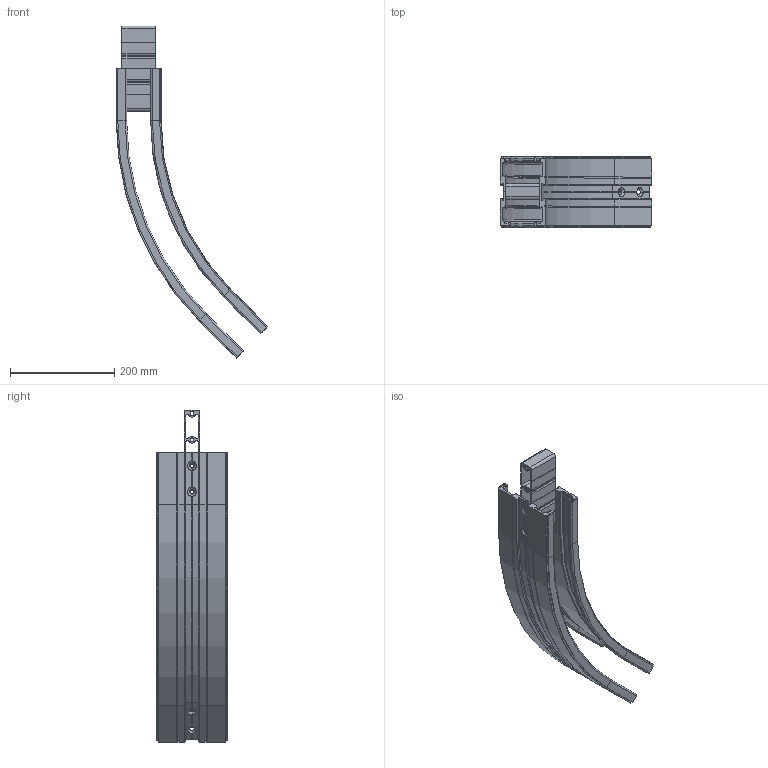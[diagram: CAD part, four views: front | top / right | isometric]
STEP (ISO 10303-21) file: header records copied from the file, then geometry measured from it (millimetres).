
FILE_DESCRIPTION (( 'STEP AP203' ), '1' );
FILE_NAME ('R2C500-45.STEP', '2008-12-02T09:28:52', ( 'faber' ), ( '' ), 'SwSTEP 2.0', 'SolidWorks 2008', '' );
FILE_SCHEMA (( 'CONFIG_CONTROL_DESIGN' ));
Length unit declared in the file: millimetre
Products named in the file (1): R2C500-45
Bounding box: 290.56 x 135 x 636.42 mm (x, y, z)
Surface area: 520717.6 mm2 (no closed solid volume)
Topology: 0 solids, 21 shells, 480 faces, 1709 edges, 1191 vertices
Faces by surface type: cylinder 209, plane 205, torus 38, cone 28
Entity records: 18160 total; most frequent: CARTESIAN_POINT 3477, DIRECTION 3247, ORIENTED_EDGE 2612, EDGE_CURVE 1709, VERTEX_POINT 1191, AXIS2_PLACEMENT_3D 1089, LINE 1069, VECTOR 1069
